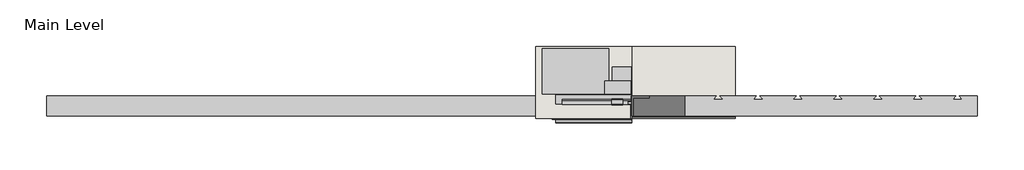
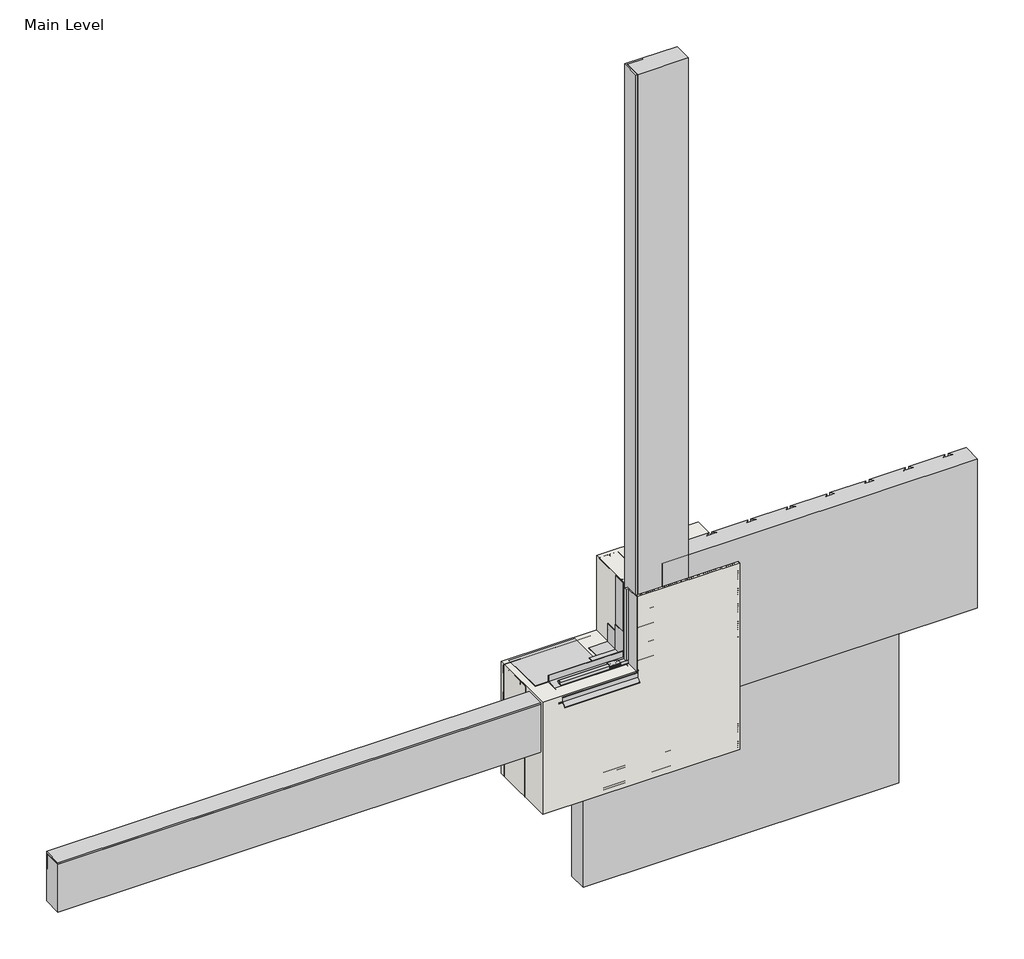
# One storey, incomplete: 27 proxies, 1 wall.
"""IFC4 building model written with IfcOpenShell, lengths in millimetres."""

from ifc_helpers import new_model, si_unit, frame, origin, place, context, project, spatial, polyline, outline, extrude, transform, mapped, element, save
from components import generic_models_31547c53, generic_models_d28646c3, generic_models_724a5e66, generic_models_bb7dc723, generic_models_b81d245b, generic_models_9f719c15, generic_models_4c4c8c8b, generic_models_ae2a9f48, generic_models_672f9cdd, generic_models_9b4c3a2c, generic_models_3fb7d6d8, proxy_4c3b85e5, proxy_c7e97176, proxy_59e8fef8, finish_coat_filler_finish_coat_filler_9b34bf11, masonry_sill_masonry_sill_39c7edd1, masonry_sill3_masonry_sill_d59b7927, masonry_sill4_masonry_sill_f52e6068, proxy_a3fd9b0b, proxy_3a0ad636, proxy_0073da47, proxy_6f3203ff, window_header_window_header_abd4ef46, wood_blocking_5320d369

model = new_model("IFC4")

# Units and contexts
model_context = context("Model", 3, world=origin())
ifc_project = project(units=[si_unit("LENGTHUNIT", "METRE", prefix="MILLI")], contexts=[model_context])

# Site, building, storey
site = spatial("IfcSite", under=ifc_project)
building = spatial("IfcBuilding", under=site)
storey = spatial("IfcBuildingStorey", under=building, Name="Main Level", Elevation=0.0)

# Proxies
placement = place(None, origin())
generic_models_shape = generic_models_31547c53(model_context)
element("IfcBuildingElementProxy", 1, Name="Durabond Generic Model Sealant Vent : Durabond Generic Model Sealant Vent", ObjectType="Durabond Generic Model Sealant Vent : Durabond Generic Model Sealant Vent", at=placement, inside=storey, context=model_context, shape_type="MappedRepresentation", body=[
    mapped(generic_models_shape, transform((26800.7195523, 590.8476543, 464.646745), x_axis=(1.0, 0.0, 0.0), y_axis=(0.0, 0.08715574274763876, -0.9961946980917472), z_axis=(0.0, 0.9961946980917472, 0.08715574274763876))),
])
generic_models_2_shape = generic_models_d28646c3(model_context)
element("IfcBuildingElementProxy", 2, Name="CRAi Generic Model Line Based Drip Deflector : CRAi Generic Model Line Based Drip Deflector", ObjectType="CRAi Generic Model Line Based Drip Deflector : CRAi Generic Model Line Based Drip Deflector", at=placement, inside=storey, context=model_context, shape_type="MappedRepresentation", body=[
    mapped(generic_models_2_shape, transform((26855.8851773, 535.1829375, 451.8088934), x_axis=(0.0, 0.996194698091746, 0.08715574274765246), y_axis=(-1.0, 0.0, 0.0), z_axis=(0.0, -0.0871557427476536, 0.996194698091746))),
])
generic_models_3_shape = generic_models_724a5e66(model_context)
element("IfcBuildingElementProxy", 3, Name="Durabond Generic Model Insulation Adhesive Flat : Durabond Generic Model Insulation Adhesive Flat", ObjectType="Durabond Generic Model Insulation Adhesive Flat : Durabond Generic Model Insulation Adhesive Flat", at=placement, inside=storey, context=model_context, shape_type="MappedRepresentation", body=[
    mapped(generic_models_3_shape, transform((26690.7851773, 627.6316297, 381.0), x_axis=(1.0, 0.0, 0.0), y_axis=(0.0, -1.0, 0.0), z_axis=(0.0, 0.0, -1.0))),
])
element("IfcBuildingElementProxy", 4, Name="Durabond Generic Model Insulation Adhesive Flat : Durabond Generic Model Insulation Adhesive Flat", ObjectType="Durabond Generic Model Insulation Adhesive Flat : Durabond Generic Model Insulation Adhesive Flat", at=placement, inside=storey, context=model_context, shape_type="MappedRepresentation", body=[
    mapped(generic_models_3_shape, transform((26767.5640019, 634.2476252, 381.0), x_axis=(1.0, 0.0, 0.0), y_axis=(0.0, -1.0, 0.0), z_axis=(0.0, 0.0, -1.0))),
])
element("IfcBuildingElementProxy", 5, Name="Durabond Generic Model Insulation Adhesive Flat : Durabond Generic Model Insulation Adhesive Flat", ObjectType="Durabond Generic Model Insulation Adhesive Flat : Durabond Generic Model Insulation Adhesive Flat", at=placement, inside=storey, context=model_context, shape_type="MappedRepresentation", body=[
    mapped(generic_models_3_shape, transform((26843.7640019, 634.2476252, 381.0), x_axis=(1.0, 0.0, 0.0), y_axis=(0.0, -1.0, 0.0), z_axis=(0.0, 0.0, -1.0))),
])
generic_models_4_shape = generic_models_bb7dc723(model_context)
element("IfcBuildingElementProxy", 6, Name="Durabond Generic Model Insulation Adhesive Flat : Durabond Generic Model Insulation Adhesive Flat", ObjectType="Durabond Generic Model Insulation Adhesive Flat : Durabond Generic Model Insulation Adhesive Flat", at=placement, inside=storey, context=model_context, shape_type="MappedRepresentation", body=[
    mapped(generic_models_4_shape, transform((26919.3851773, 627.6316297, 762.0), x_axis=(1.0, 0.0, 0.0), y_axis=(0.0, -1.0, 0.0), z_axis=(0.0, 0.0, -1.0))),
])
element("IfcBuildingElementProxy", 7, Name="Durabond Generic Model Insulation Adhesive Flat : Durabond Generic Model Insulation Adhesive Flat", ObjectType="Durabond Generic Model Insulation Adhesive Flat : Durabond Generic Model Insulation Adhesive Flat", at=placement, inside=storey, context=model_context, shape_type="MappedRepresentation", body=[
    mapped(generic_models_4_shape, transform((26995.5851773, 627.6316297, 762.0), x_axis=(1.0, 0.0, 0.0), y_axis=(0.0, -1.0, 0.0), z_axis=(0.0, 0.0, -1.0))),
])
element("IfcBuildingElementProxy", 8, Name="Durabond Generic Model Insulation Adhesive Flat : Durabond Generic Model Insulation Adhesive Flat", ObjectType="Durabond Generic Model Insulation Adhesive Flat : Durabond Generic Model Insulation Adhesive Flat", at=placement, inside=storey, context=model_context, shape_type="MappedRepresentation", body=[
    mapped(generic_models_4_shape, transform((27071.7851773, 627.6316297, 762.0), x_axis=(1.0, 0.0, 0.0), y_axis=(0.0, -1.0, 0.0), z_axis=(0.0, 0.0, -1.0))),
])
element("IfcBuildingElementProxy", 9, Name="Durabond Generic Model Insulation Adhesive Flat : Durabond Generic Model Insulation Adhesive Flat", ObjectType="Durabond Generic Model Insulation Adhesive Flat : Durabond Generic Model Insulation Adhesive Flat", at=placement, inside=storey, context=model_context, shape_type="MappedRepresentation", body=[
    mapped(generic_models_4_shape, transform((27147.9851773, 627.6316297, 762.0), x_axis=(1.0, 0.0, 0.0), y_axis=(0.0, -1.0, 0.0), z_axis=(0.0, 0.0, -1.0))),
])
generic_models_5_shape = generic_models_b81d245b(model_context)
generic_models_6_shape = generic_models_9f719c15(model_context)
generic_models_7_shape = generic_models_4c4c8c8b(model_context)
generic_models_8_shape = generic_models_ae2a9f48(model_context)
element("IfcBuildingElementProxy", 10, Name="CRAi Generic Model Mesh Piece Face Based : CRAi Generic Model Mesh Piece Face Based", ObjectType="CRAi Generic Model Mesh Piece Face Based : CRAi Generic Model Mesh Piece Face Based", at=placement, inside=storey, context=model_context, shape_type="MappedRepresentation", body=[
    mapped(generic_models_5_shape, transform((27054.3226773, 541.9066297, 606.487889), x_axis=(-1.0, 0.0, 0.0), y_axis=(0.0, 0.0, -1.0), z_axis=(0.0, -1.0, 0.0))),
    mapped(generic_models_6_shape, transform((27054.3226773, 541.9066297, 606.487889), x_axis=(-1.0, 0.0, 0.0), y_axis=(0.0, 0.0, -1.0), z_axis=(0.0, -1.0, 0.0))),
    mapped(generic_models_7_shape, transform((27054.3226773, 541.9066297, 606.487889), x_axis=(-1.0, 0.0, 0.0), y_axis=(0.0, 0.0, -1.0), z_axis=(0.0, -1.0, 0.0))),
    mapped(generic_models_8_shape, transform((27054.3226773, 541.9066297, 606.487889), x_axis=(-1.0, 0.0, 0.0), y_axis=(0.0, 0.0, -1.0), z_axis=(0.0, -1.0, 0.0))),
])
generic_models_9_shape = generic_models_672f9cdd(model_context)
generic_models_10_shape = generic_models_9b4c3a2c(model_context)
generic_models_11_shape = generic_models_3fb7d6d8(model_context)
element("IfcBuildingElementProxy", 11, Name="CRAi Generic Model Mesh Piece Face Based : CRAi Generic Model Mesh Piece Face Based", ObjectType="CRAi Generic Model Mesh Piece Face Based : CRAi Generic Model Mesh Piece Face Based", at=placement, inside=storey, context=model_context, shape_type="MappedRepresentation", body=[
    mapped(generic_models_9_shape, transform((26990.8226773, 541.9066297, 50.8), x_axis=(-1.0, 0.0, 0.0), y_axis=(0.0, 0.0, -1.0), z_axis=(0.0, -1.0, 0.0))),
    mapped(generic_models_10_shape, transform((26990.8226773, 541.9066297, 50.8), x_axis=(-1.0, 0.0, 0.0), y_axis=(0.0, 0.0, -1.0), z_axis=(0.0, -1.0, 0.0))),
    mapped(generic_models_11_shape, transform((26990.8226773, 541.9066297, 50.8), x_axis=(-1.0, 0.0, 0.0), y_axis=(0.0, 0.0, -1.0), z_axis=(0.0, -1.0, 0.0))),
])
proxy_shape = proxy_4c3b85e5(model_context)
element("IfcBuildingElementProxy", 12, Name="Durabond Generic Model Flexlite Boundary Board : 3\"", ObjectType="Durabond Generic Model Flexlite Boundary Board : 3\"", at=placement, inside=storey, context=model_context, shape_type="MappedRepresentation", body=[
    mapped(proxy_shape, transform((25839.8851773, 624.4566297, 349.375778), x_axis=(-1.0, 0.0, 0.0), y_axis=(0.0, 0.0, -1.0), z_axis=(0.0, -1.0, 0.0))),
])
proxy_2_shape = proxy_c7e97176(model_context)
element("IfcBuildingElementProxy", 13, Name="Durabond Generic Model Flexlite Boundary Board : 3\"", ObjectType="Durabond Generic Model Flexlite Boundary Board : 3\"", at=placement, inside=storey, context=model_context, shape_type="MappedRepresentation", body=[
    mapped(proxy_2_shape, transform((26957.4851773, 624.4566297, 1670.175778), x_axis=(0.0, 0.0, 1.0), y_axis=(-1.0, 0.0, 0.0), z_axis=(0.0, -1.0, 0.0))),
])
proxy_3_shape = proxy_59e8fef8(model_context)
element("IfcBuildingElementProxy", 14, Name="Durabond Generic Model Flexlite Insulation Board : 3\"", ObjectType="Durabond Generic Model Flexlite Insulation Board : 3\"", at=placement, inside=storey, context=model_context, shape_type="MappedRepresentation", body=[
    mapped(proxy_3_shape, transform((27262.2851773, 624.4566297, -57.024222), x_axis=(1.0, 0.0, 0.0), y_axis=(0.0, 0.0, 1.0), z_axis=(0.0, -1.0, 0.0))),
])
element("IfcBuildingElementProxy", 15, Name="Durabond Generic Model Flexlite Insulation Board : 3\"", ObjectType="Durabond Generic Model Flexlite Insulation Board : 3\"", at=placement, inside=storey, context=model_context, shape_type="MappedRepresentation", body=[
    mapped(proxy_3_shape, transform((27567.0851773, 624.4566297, 552.575778), x_axis=(1.0, 0.0, 0.0), y_axis=(0.0, 0.0, 1.0), z_axis=(0.0, -1.0, 0.0))),
])
finish_coat_filler_finish_coat_filler_shape = finish_coat_filler_finish_coat_filler_9b34bf11(model_context)
element("IfcBuildingElementProxy", 16, Name="Finish Coat Filler : Finish Coat Filler", ObjectType="Finish Coat Filler : Finish Coat Filler", at=placement, inside=storey, context=model_context, shape_type="MappedRepresentation", body=[
    mapped(finish_coat_filler_finish_coat_filler_shape, transform((0.0, 0.0, -152.4), x_axis=(1.0, 0.0, 0.0), y_axis=(0.0, 1.0, 0.0), z_axis=(0.0, 0.0, 1.0))),
])
masonry_sill_masonry_sill_shape = masonry_sill_masonry_sill_39c7edd1(model_context)
element("IfcBuildingElementProxy", 17, Name="Masonry Sill : Masonry Sill", ObjectType="Masonry Sill : Masonry Sill", at=placement, inside=storey, context=model_context, shape_type="MappedRepresentation", body=[
    mapped(masonry_sill_masonry_sill_shape, transform((0.0, 0.0, 0.0), x_axis=(1.0, 0.0, 0.0), y_axis=(0.0, 1.0, 0.0), z_axis=(0.0, 0.0, 1.0))),
])
masonry_sill3_masonry_sill_shape = masonry_sill3_masonry_sill_d59b7927(model_context)
element("IfcBuildingElementProxy", 18, Name="Masonry Sill3 : Masonry Sill", ObjectType="Masonry Sill3 : Masonry Sill", at=placement, inside=storey, context=model_context, shape_type="MappedRepresentation", body=[
    mapped(masonry_sill3_masonry_sill_shape, transform((0.0, 0.0, 0.0), x_axis=(1.0, 0.0, 0.0), y_axis=(0.0, 1.0, 0.0), z_axis=(0.0, 0.0, 1.0))),
])
masonry_sill4_masonry_sill_shape = masonry_sill4_masonry_sill_f52e6068(model_context)
element("IfcBuildingElementProxy", 19, Name="Masonry Sill4 : Masonry Sill", ObjectType="Masonry Sill4 : Masonry Sill", at=placement, inside=storey, context=model_context, shape_type="MappedRepresentation", body=[
    mapped(masonry_sill4_masonry_sill_shape, transform((0.0, 0.0, -101.6), x_axis=(1.0, 0.0, 0.0), y_axis=(0.0, 1.0, 0.0), z_axis=(0.0, 0.0, 1.0))),
])
proxy_4_shape = proxy_a3fd9b0b(model_context)
element("IfcBuildingElementProxy", 20, Name="CRAi Generic Model Metal Stud : Metal Framing Stud - 1\" x 3.5\"", ObjectType="CRAi Generic Model Metal Stud : Metal Framing Stud - 1\" x 3.5\"", at=placement, inside=storey, context=model_context, shape_type="MappedRepresentation", body=[
    mapped(proxy_4_shape, transform((26876.5226773, 726.0566297, 0.0), x_axis=(1.0, 0.0, 0.0), y_axis=(0.0, 1.0, 0.0), z_axis=(0.0, 0.0, 1.0))),
])
proxy_5_shape = proxy_3a0ad636(model_context)
element("IfcBuildingElementProxy", 21, Name="CRAi Generic Model Metal Stud : Metal Framing Stud - 1\" x 3.5\"", ObjectType="CRAi Generic Model Metal Stud : Metal Framing Stud - 1\" x 3.5\"", at=placement, inside=storey, context=model_context, shape_type="MappedRepresentation", body=[
    mapped(proxy_5_shape, transform((26876.5226773, 726.0566297, 0.0), x_axis=(1.0, 0.0, 0.0), y_axis=(0.0, 1.0, 0.0), z_axis=(0.0, 0.0, 1.0))),
])
proxy_6_shape = proxy_0073da47(model_context)
element("IfcBuildingElementProxy", 22, Name="CRAi Generic Model Metal Stud : Metal Framing Stud - 1\" x 3.5\"", ObjectType="CRAi Generic Model Metal Stud : Metal Framing Stud - 1\" x 3.5\"", at=placement, inside=storey, context=model_context, shape_type="MappedRepresentation", body=[
    mapped(proxy_6_shape, transform((26914.6226773, 726.0566297, 0.0), x_axis=(-1.0, 0.0, 0.0), y_axis=(0.0, -1.0, 0.0), z_axis=(0.0, 0.0, 1.0))),
])
proxy_7_shape = proxy_6f3203ff(model_context)
element("IfcBuildingElementProxy", 23, Name="CRAi Generic Model Metal Stud : Metal Framing Stud - 1\" x 3.5\"", ObjectType="CRAi Generic Model Metal Stud : Metal Framing Stud - 1\" x 3.5\"", at=placement, inside=storey, context=model_context, shape_type="MappedRepresentation", body=[
    mapped(proxy_7_shape, transform((26508.2226773, 726.0566297, 0.0), x_axis=(-1.0, 0.0, 0.0), y_axis=(0.0, -1.0, 0.0), z_axis=(0.0, 0.0, 1.0))),
])
window_header_window_header_shape = window_header_window_header_abd4ef46(model_context)
element("IfcBuildingElementProxy", 24, Name="Window Header : Window Header", ObjectType="Window Header : Window Header", at=placement, inside=storey, context=model_context, shape_type="MappedRepresentation", body=[
    mapped(window_header_window_header_shape, transform((0.0, 0.0, 0.0), x_axis=(1.0, 0.0, 0.0), y_axis=(0.0, 1.0, 0.0), z_axis=(0.0, 0.0, 1.0))),
])
wood_blocking_shape = wood_blocking_5320d369(model_context)
element("IfcBuildingElementProxy", 25, Name="CRAi Generic Model Line Based Metal Framing Track : Wood Blocking", ObjectType="CRAi Generic Model Line Based Metal Framing Track : Wood Blocking", at=placement, inside=storey, context=model_context, shape_type="MappedRepresentation", body=[
    mapped(wood_blocking_shape, transform((26489.1726773, 649.8566297, 304.8), x_axis=(1.0, 0.0, 0.0), y_axis=(0.0, 1.0, 0.0), z_axis=(0.0, 0.0, 1.0))),
])
element("IfcBuildingElementProxy", 26, Name="CRAi Generic Model Line Based Metal Framing Track : Wood Blocking", ObjectType="CRAi Generic Model Line Based Metal Framing Track : Wood Blocking", at=placement, inside=storey, context=model_context, shape_type="MappedRepresentation", body=[
    mapped(wood_blocking_shape, transform((26489.1726773, 802.257101, 457.2), x_axis=(1.0, 0.0, 0.0), y_axis=(0.0, -1.0, 0.0), z_axis=(0.0, 0.0, -1.0))),
])
element("IfcBuildingElementProxy", 27, Name="CRAi Generic Model Line Based Metal Framing Track : Wood Blocking", ObjectType="CRAi Generic Model Line Based Metal Framing Track : Wood Blocking", at=placement, inside=storey, context=model_context, shape_type="MappedRepresentation", body=[
    mapped(wood_blocking_shape, transform((26489.1726773, 802.2566297, 304.8), x_axis=(1.0, 0.0, 0.0), y_axis=(0.0, -1.0, 0.0), z_axis=(0.0, 0.0, -1.0))),
])

# Wall
element("IfcWall", 28, ObjectType="189mm (7.5”) EIFS Field Applied on Mtl. Stud Layer - 50mm Grooved Insulation Board Metal Stud Wall (AirStop)", at=placement, inside=storey, context=model_context, shape_type="SweptSolid", body=[
    extrude(outline(polyline([(0.0, 26489.1726773), (0.0, 27251.1726773), (762.0, 27251.1726773), (762.0, 26857.4726773), (457.2, 26857.4726773), (457.2, 26489.1726773), (0.0, 26489.1726773)])), frame((0.0, 538.7316297, 0.0), z_axis=(0.0, 1.0, 0.0), x_axis=(0.0, 0.0, 1.0)), (0.0, 0.0, 1.0), 276.225),
])

save(model, "model.ifc")
